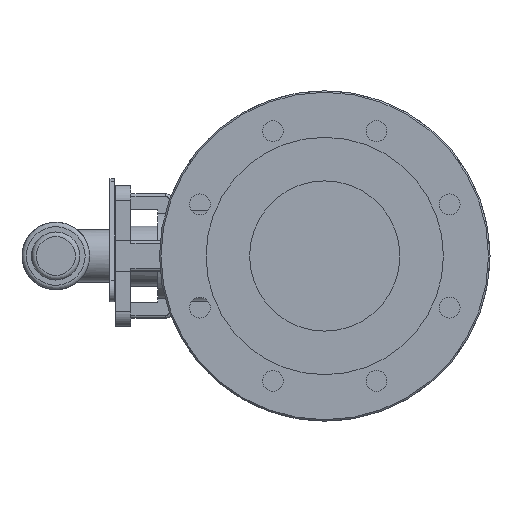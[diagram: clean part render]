
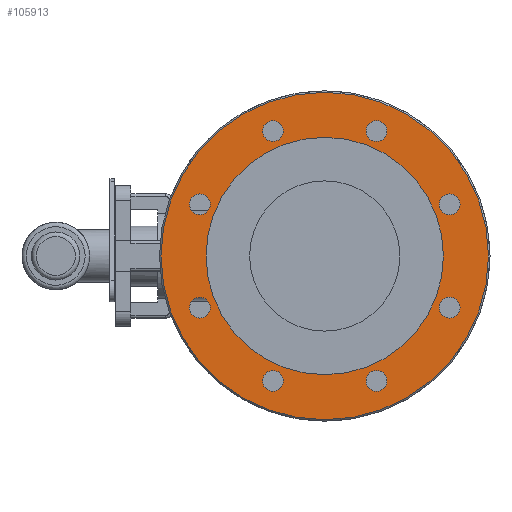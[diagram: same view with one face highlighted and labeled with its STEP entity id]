
A CAD part, left-side view. The second image highlights one B-rep face of the part: STEP entity #105913.
In plain terms, the highlighted planar face has unit normal (-1, 0, 0).
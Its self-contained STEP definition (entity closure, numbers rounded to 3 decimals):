
#105530=CARTESIAN_POINT('',(-72.0,-34.442,90.067));
#105531=VERTEX_POINT('',#105530);
#105532=CARTESIAN_POINT('',(-72.0,-34.442,83.149));
#105533=DIRECTION('',(1.0,0.0,0.0));
#105534=DIRECTION('',(0.0,0.0,1.0));
#105535=AXIS2_PLACEMENT_3D('',#105532,#105533,#105534);
#105536=CIRCLE('',#105535,6.918);
#105537=EDGE_CURVE('',#105531,#105531,#105536,.T.);
#105550=CARTESIAN_POINT('',(-72.0,-83.149,41.359));
#105551=VERTEX_POINT('',#105550);
#105552=CARTESIAN_POINT('',(-72.0,-83.149,34.442));
#105553=DIRECTION('',(1.0,0.0,0.0));
#105554=DIRECTION('',(0.0,0.0,1.0));
#105555=AXIS2_PLACEMENT_3D('',#105552,#105553,#105554);
#105556=CIRCLE('',#105555,6.918);
#105557=EDGE_CURVE('',#105551,#105551,#105556,.T.);
#105570=CARTESIAN_POINT('',(-72.0,-83.149,-27.524));
#105571=VERTEX_POINT('',#105570);
#105572=CARTESIAN_POINT('',(-72.0,-83.149,-34.442));
#105573=DIRECTION('',(1.0,0.0,0.0));
#105574=DIRECTION('',(0.0,0.0,1.0));
#105575=AXIS2_PLACEMENT_3D('',#105572,#105573,#105574);
#105576=CIRCLE('',#105575,6.918);
#105577=EDGE_CURVE('',#105571,#105571,#105576,.T.);
#105590=CARTESIAN_POINT('',(-72.0,-34.442,-76.232));
#105591=VERTEX_POINT('',#105590);
#105592=CARTESIAN_POINT('',(-72.0,-34.442,-83.149));
#105593=DIRECTION('',(1.0,0.0,0.0));
#105594=DIRECTION('',(0.0,0.0,1.0));
#105595=AXIS2_PLACEMENT_3D('',#105592,#105593,#105594);
#105596=CIRCLE('',#105595,6.918);
#105597=EDGE_CURVE('',#105591,#105591,#105596,.T.);
#105610=CARTESIAN_POINT('',(-72.0,34.442,-76.232));
#105611=VERTEX_POINT('',#105610);
#105612=CARTESIAN_POINT('',(-72.0,34.442,-83.149));
#105613=DIRECTION('',(1.0,0.0,0.0));
#105614=DIRECTION('',(0.0,0.0,1.0));
#105615=AXIS2_PLACEMENT_3D('',#105612,#105613,#105614);
#105616=CIRCLE('',#105615,6.918);
#105617=EDGE_CURVE('',#105611,#105611,#105616,.T.);
#105630=CARTESIAN_POINT('',(-72.0,83.149,-27.524));
#105631=VERTEX_POINT('',#105630);
#105632=CARTESIAN_POINT('',(-72.0,83.149,-34.442));
#105633=DIRECTION('',(1.0,0.0,0.0));
#105634=DIRECTION('',(0.0,0.0,1.0));
#105635=AXIS2_PLACEMENT_3D('',#105632,#105633,#105634);
#105636=CIRCLE('',#105635,6.918);
#105637=EDGE_CURVE('',#105631,#105631,#105636,.T.);
#105650=CARTESIAN_POINT('',(-72.0,83.149,41.359));
#105651=VERTEX_POINT('',#105650);
#105652=CARTESIAN_POINT('',(-72.0,83.149,34.442));
#105653=DIRECTION('',(1.0,0.0,0.0));
#105654=DIRECTION('',(0.0,0.0,1.0));
#105655=AXIS2_PLACEMENT_3D('',#105652,#105653,#105654);
#105656=CIRCLE('',#105655,6.918);
#105657=EDGE_CURVE('',#105651,#105651,#105656,.T.);
#105670=CARTESIAN_POINT('',(-72.0,34.442,90.067));
#105671=VERTEX_POINT('',#105670);
#105672=CARTESIAN_POINT('',(-72.0,34.442,83.149));
#105673=DIRECTION('',(1.0,0.0,0.0));
#105674=DIRECTION('',(0.0,0.0,1.0));
#105675=AXIS2_PLACEMENT_3D('',#105672,#105673,#105674);
#105676=CIRCLE('',#105675,6.918);
#105677=EDGE_CURVE('',#105671,#105671,#105676,.T.);
#105855=CARTESIAN_POINT('',(-72.0,109.0,0.));
#105856=VERTEX_POINT('',#105855);
#105857=CARTESIAN_POINT('',(-72.0,0.0,0.0));
#105858=DIRECTION('',(1.0,0.0,0.0));
#105859=DIRECTION('',(0.0,-1.0,0.0));
#105860=AXIS2_PLACEMENT_3D('',#105857,#105858,#105859);
#105861=CIRCLE('',#105860,109.0);
#105862=EDGE_CURVE('',#105856,#105856,#105861,.T.);
#105870=CARTESIAN_POINT('',(-72.0,94.5,0.0));
#105871=DIRECTION('',(-1.0,0.0,0.0));
#105872=DIRECTION('',(0.0,0.0,1.0));
#105873=AXIS2_PLACEMENT_3D('',#105870,#105871,#105872);
#105874=PLANE('',#105873);
#105875=ORIENTED_EDGE('',*,*,#105862,.F.);
#105876=EDGE_LOOP('',(#105875));
#105877=FACE_OUTER_BOUND('',#105876,.T.);
#105878=ORIENTED_EDGE('',*,*,#105537,.T.);
#105879=EDGE_LOOP('',(#105878));
#105880=FACE_BOUND('',#105879,.T.);
#105881=ORIENTED_EDGE('',*,*,#105557,.T.);
#105882=EDGE_LOOP('',(#105881));
#105883=FACE_BOUND('',#105882,.T.);
#105884=ORIENTED_EDGE('',*,*,#105577,.T.);
#105885=EDGE_LOOP('',(#105884));
#105886=FACE_BOUND('',#105885,.T.);
#105887=ORIENTED_EDGE('',*,*,#105597,.T.);
#105888=EDGE_LOOP('',(#105887));
#105889=FACE_BOUND('',#105888,.T.);
#105890=ORIENTED_EDGE('',*,*,#105617,.T.);
#105891=EDGE_LOOP('',(#105890));
#105892=FACE_BOUND('',#105891,.T.);
#105893=ORIENTED_EDGE('',*,*,#105637,.T.);
#105894=EDGE_LOOP('',(#105893));
#105895=FACE_BOUND('',#105894,.T.);
#105896=ORIENTED_EDGE('',*,*,#105657,.T.);
#105897=EDGE_LOOP('',(#105896));
#105898=FACE_BOUND('',#105897,.T.);
#105899=ORIENTED_EDGE('',*,*,#105677,.T.);
#105900=EDGE_LOOP('',(#105899));
#105901=FACE_BOUND('',#105900,.T.);
#105902=CARTESIAN_POINT('',(-72.0,79.0,0.0));
#105903=VERTEX_POINT('',#105902);
#105904=CARTESIAN_POINT('',(-72.0,0.0,0.0));
#105905=DIRECTION('',(1.0,0.0,0.0));
#105906=DIRECTION('',(0.0,1.0,0.0));
#105907=AXIS2_PLACEMENT_3D('',#105904,#105905,#105906);
#105908=CIRCLE('',#105907,79.0);
#105909=EDGE_CURVE('',#105903,#105903,#105908,.T.);
#105910=ORIENTED_EDGE('',*,*,#105909,.T.);
#105911=EDGE_LOOP('',(#105910));
#105912=FACE_BOUND('',#105911,.T.);
#105913=ADVANCED_FACE('',(#105877,#105880,#105883,#105886,#105889,#105892,#105895,#105898,#105901,#105912),#105874,.T.);
